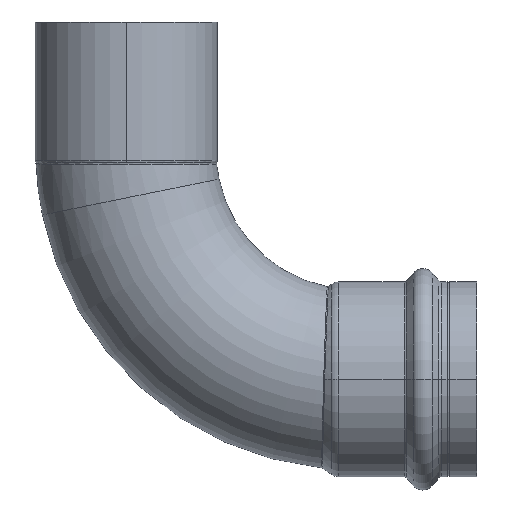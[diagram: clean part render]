
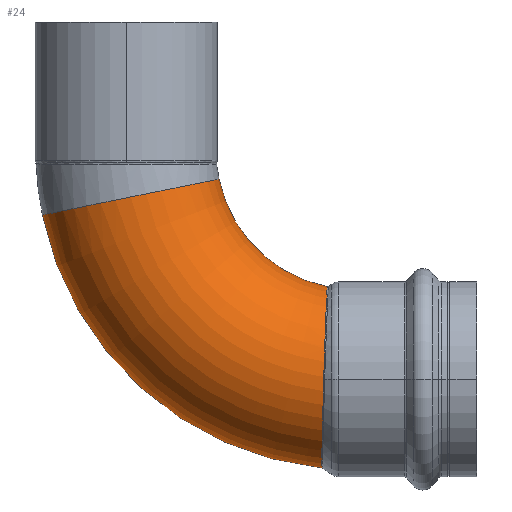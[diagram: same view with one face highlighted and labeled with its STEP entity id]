
A CAD part, top view. The second image highlights one B-rep face of the part: STEP entity #24.
In plain terms, the highlighted toroidal (fillet/blend) face has major radius 67.5 mm and minor radius 26.75 mm.
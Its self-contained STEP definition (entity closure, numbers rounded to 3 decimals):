
#12 = CARTESIAN_POINT ( 'NONE',  ( 58.665, 2.331, 26.7 ) ) ;
#24 = ADVANCED_FACE ( 'NONE', ( #2729 ), #2611, .T. ) ;
#27 = CARTESIAN_POINT ( 'NONE',  ( 58., -24.389, 9.847 ) ) ;
#41 = CARTESIAN_POINT ( 'NONE',  ( 58.256, -13.002, 23.083 ) ) ;
#61 = CARTESIAN_POINT ( 'NONE',  ( 58.883, 9.291, 25.338 ) ) ;
#70 = CARTESIAN_POINT ( 'NONE',  ( 59.392, 22.893, 15.023 ) ) ;
#91 = EDGE_CURVE ( 'NONE', #2955, #409, #864, .T. ) ;
#119 = DIRECTION ( 'NONE',  ( 0., 0., -1. ) ) ;
#333 = ORIENTED_EDGE ( 'NONE', *, *, #1307, .T. ) ;
#362 = EDGE_CURVE ( 'NONE', #2045, #3511, #3889, .T. ) ;
#394 = CARTESIAN_POINT ( 'NONE',  ( 57.961, -26.266, 0. ) ) ;
#396 = CARTESIAN_POINT ( 'NONE',  ( 58.22, -14.519, 22.128 ) ) ;
#409 = VERTEX_POINT ( 'NONE', #3865 ) ;
#413 = CARTESIAN_POINT ( 'NONE',  ( 58.976, 12.038, 24.213 ) ) ;
#422 = CARTESIAN_POINT ( 'NONE',  ( 59.492, 25.206, 11.077 ) ) ;
#447 = CARTESIAN_POINT ( 'NONE',  ( 1.347, 54.081, 0. ) ) ;
#464 = ORIENTED_EDGE ( 'NONE', *, *, #3797, .F. ) ;
#546 = CARTESIAN_POINT ( 'NONE',  ( 67.5, 67.5, 0. ) ) ;
#551 = DIRECTION ( 'NONE',  ( -1., 0., 0. ) ) ;
#647 = B_SPLINE_CURVE_WITH_KNOTS ( 'NONE', 3,
 ( #2679, #1715, #1138, #3296, #1441, #3576, #1731, #3845, #2028, #70, #2347, #422, #2696, #810, #3021, #1151, #3311, #1449, #3583, #1745 ),
 .UNSPECIFIED., .F., .F.,
 ( 4, 2, 2, 2, 2, 2, 2, 2, 2, 4 ),
 ( 0.078, 0.08, 0.082, 0.085, 0.089, 0.092, 0.099, 0.101, 0.102, 0.106 ),
 .UNSPECIFIED. ) ;
#700 = ORIENTED_EDGE ( 'NONE', *, *, #2612, .F. ) ;
#810 = CARTESIAN_POINT ( 'NONE',  ( 59.565, 26.793, 6.204 ) ) ;
#811 = DIRECTION ( 'NONE',  ( -1., 0., 0. ) ) ;
#821 = CARTESIAN_POINT ( 'NONE',  ( 67.5, 67.5, 0. ) ) ;
#834 = DIRECTION ( 'NONE',  ( -0.98, -0.199, 0. ) ) ;
#864 = CIRCLE ( 'NONE', #2225, 40.75 ) ;
#1096 = CARTESIAN_POINT ( 'NONE',  ( 57.996, -24.602, 9.292 ) ) ;
#1108 = CARTESIAN_POINT ( 'NONE',  ( 58.498, -3.562, 26.436 ) ) ;
#1138 = CARTESIAN_POINT ( 'NONE',  ( 59.104, 15.626, 22.189 ) ) ;
#1145 = CARTESIAN_POINT ( 'NONE',  ( 58.563, -1.216, 26.716 ) ) ;
#1151 = CARTESIAN_POINT ( 'NONE',  ( 59.581, 27.141, 4.521 ) ) ;
#1217 = DIRECTION ( 'NONE',  ( 0., 0., -1. ) ) ;
#1307 = EDGE_CURVE ( 'NONE', #3511, #2955, #647, .T. ) ;
#1330 = CARTESIAN_POINT ( 'NONE',  ( 58.995, 12.578, 23.953 ) ) ;
#1365 = CARTESIAN_POINT ( 'NONE',  ( 58.099, -19.818, 17.435 ) ) ;
#1392 = CARTESIAN_POINT ( 'NONE',  ( 58.015, -23.696, 11.485 ) ) ;
#1419 = CARTESIAN_POINT ( 'NONE',  ( 58.451, -5.315, 26.104 ) ) ;
#1434 = CARTESIAN_POINT ( 'NONE',  ( 57.963, -26.186, 2.378 ) ) ;
#1441 = CARTESIAN_POINT ( 'NONE',  ( 59.157, 17.024, 21.188 ) ) ;
#1445 = CARTESIAN_POINT ( 'NONE',  ( 59.032, 13.634, 23.401 ) ) ;
#1449 = CARTESIAN_POINT ( 'NONE',  ( 59.596, 27.45, 2.269 ) ) ;
#1455 = AXIS2_PLACEMENT_3D ( 'NONE', #447, #2718, #834 ) ;
#1489 = CIRCLE ( 'NONE', #2687, 94.25 ) ;
#1617 = DIRECTION ( 'NONE',  ( 0., 0., -1. ) ) ;
#1654 = CARTESIAN_POINT ( 'NONE',  ( 58.066, -21.297, 15.553 ) ) ;
#1665 = CARTESIAN_POINT ( 'NONE',  ( 58.701, 3.519, 26.597 ) ) ;
#1678 = CIRCLE ( 'NONE', #1455, 26.75 ) ;
#1682 = CARTESIAN_POINT ( 'NONE',  ( 58.155, -17.332, 19.962 ) ) ;
#1707 = CARTESIAN_POINT ( 'NONE',  ( 58.376, -8.182, 25.313 ) ) ;
#1715 = CARTESIAN_POINT ( 'NONE',  ( 59.087, 15.148, 22.502 ) ) ;
#1721 = CARTESIAN_POINT ( 'NONE',  ( 58.719, 4.113, 26.526 ) ) ;
#1731 = CARTESIAN_POINT ( 'NONE',  ( 59.241, 19.211, 19.345 ) ) ;
#1737 = CARTESIAN_POINT ( 'NONE',  ( 59.069, 14.66, 22.799 ) ) ;
#1745 = CARTESIAN_POINT ( 'NONE',  ( 59.599, 27.523, 0. ) ) ;
#1819 = AXIS2_PLACEMENT_3D ( 'NONE', #546, #1217, #551 ) ;
#1949 = CARTESIAN_POINT ( 'NONE',  ( 57.984, -25.17, 7.592 ) ) ;
#1960 = CARTESIAN_POINT ( 'NONE',  ( 58.116, -19.025, 18.315 ) ) ;
#1974 = CARTESIAN_POINT ( 'NONE',  ( 58.648, 1.738, 26.732 ) ) ;
#2003 = CARTESIAN_POINT ( 'NONE',  ( 58.294, -11.446, 23.946 ) ) ;
#2017 = CARTESIAN_POINT ( 'NONE',  ( 58.809, 7.027, 25.998 ) ) ;
#2028 = CARTESIAN_POINT ( 'NONE',  ( 59.335, 21.527, 16.85 ) ) ;
#2040 = CARTESIAN_POINT ( 'NONE',  ( 59.599, 27.523, 0. ) ) ;
#2045 = VERTEX_POINT ( 'NONE', #394 ) ;
#2082 = CARTESIAN_POINT ( 'NONE',  ( 67.5, 67.5, 0. ) ) ;
#2225 = AXIS2_PLACEMENT_3D ( 'NONE', #821, #1617, #811 ) ;
#2303 = CARTESIAN_POINT ( 'NONE',  ( 57.987, -24.994, 8.162 ) ) ;
#2322 = CARTESIAN_POINT ( 'NONE',  ( 58.244, -13.514, 22.776 ) ) ;
#2337 = CARTESIAN_POINT ( 'NONE',  ( 58.92, 10.403, 24.933 ) ) ;
#2347 = CARTESIAN_POINT ( 'NONE',  ( 59.419, 23.525, 14.055 ) ) ;
#2410 = DIRECTION ( 'NONE',  ( -1., 0., 0. ) ) ;
#2587 = CARTESIAN_POINT ( 'NONE',  ( 57.961, -26.266, 0. ) ) ;
#2611 = TOROIDAL_SURFACE ( 'NONE', #1819, 67.5, 26.75 ) ;
#2612 = EDGE_CURVE ( 'NONE', #3008, #409, #1678, .T. ) ;
#2664 = CARTESIAN_POINT ( 'NONE',  ( 58.209, -15.008, 21.789 ) ) ;
#2679 = CARTESIAN_POINT ( 'NONE',  ( 59.069, 14.66, 22.799 ) ) ;
#2687 = AXIS2_PLACEMENT_3D ( 'NONE', #2082, #119, #2410 ) ;
#2696 = CARTESIAN_POINT ( 'NONE',  ( 59.531, 26.062, 8.977 ) ) ;
#2704 = ORIENTED_EDGE ( 'NONE', *, *, #91, .T. ) ;
#2718 = DIRECTION ( 'NONE',  ( -0.199, 0.98, 0. ) ) ;
#2729 = FACE_OUTER_BOUND ( 'NONE', #3961, .T. ) ;
#2928 = CARTESIAN_POINT ( 'NONE',  ( 57.961, -26.266, 1.195 ) ) ;
#2955 = VERTEX_POINT ( 'NONE', #2040 ) ;
#2983 = CARTESIAN_POINT ( 'NONE',  ( 59.069, 14.66, 22.799 ) ) ;
#2986 = CARTESIAN_POINT ( 'NONE',  ( 58.175, -16.434, 20.728 ) ) ;
#3008 = VERTEX_POINT ( 'NONE', #3051 ) ;
#3021 = CARTESIAN_POINT ( 'NONE',  ( 59.571, 26.922, 5.642 ) ) ;
#3051 = CARTESIAN_POINT ( 'NONE',  ( -24.869, 48.763, 0. ) ) ;
#3224 = CARTESIAN_POINT ( 'NONE',  ( 57.969, -25.872, 4.717 ) ) ;
#3276 = CARTESIAN_POINT ( 'NONE',  ( 58.466, -4.73, 26.228 ) ) ;
#3296 = CARTESIAN_POINT ( 'NONE',  ( 59.139, 16.564, 21.532 ) ) ;
#3304 = CARTESIAN_POINT ( 'NONE',  ( 58.596, -0.037, 26.769 ) ) ;
#3311 = CARTESIAN_POINT ( 'NONE',  ( 59.585, 27.232, 3.959 ) ) ;
#3351 = ORIENTED_EDGE ( 'NONE', *, *, #362, .T. ) ;
#3498 = CARTESIAN_POINT ( 'NONE',  ( 58.026, -23.165, 12.539 ) ) ;
#3511 = VERTEX_POINT ( 'NONE', #2983 ) ;
#3550 = CARTESIAN_POINT ( 'NONE',  ( 58.405, -7.054, 25.673 ) ) ;
#3576 = CARTESIAN_POINT ( 'NONE',  ( 59.208, 18.369, 20.112 ) ) ;
#3578 = CARTESIAN_POINT ( 'NONE',  ( 59.051, 14.152, 23.109 ) ) ;
#3583 = CARTESIAN_POINT ( 'NONE',  ( 59.599, 27.523, 1.137 ) ) ;
#3777 = CARTESIAN_POINT ( 'NONE',  ( 58.052, -21.965, 14.573 ) ) ;
#3797 = EDGE_CURVE ( 'NONE', #2045, #3008, #1489, .T. ) ;
#3800 = CARTESIAN_POINT ( 'NONE',  ( 58.514, -2.976, 26.52 ) ) ;
#3828 = CARTESIAN_POINT ( 'NONE',  ( 58.32, -10.378, 24.449 ) ) ;
#3841 = CARTESIAN_POINT ( 'NONE',  ( 58.773, 5.874, 26.254 ) ) ;
#3845 = CARTESIAN_POINT ( 'NONE',  ( 59.304, 20.79, 17.714 ) ) ;
#3865 = CARTESIAN_POINT ( 'NONE',  ( 27.563, 59.399, 0. ) ) ;
#3889 = B_SPLINE_CURVE_WITH_KNOTS ( 'NONE', 3,
 ( #2587, #2928, #1434, #3224, #4054, #1949, #2303, #1096, #27, #1392, #3498, #3777, #1654, #1365, #1960, #1682, #2986, #2664, #396, #2322, #41, #2003, #3828, #1707, #3550, #1419, #3276, #1108, #3800, #1145, #3304, #1974, #12, #1665, #1721, #3841, #2017, #61, #2337, #413, #1330, #1445, #3578, #1737 ),
 .UNSPECIFIED., .F., .F.,
 ( 4, 2, 2, 2, 2, 2, 2, 2, 2, 2, 2, 2, 2, 2, 2, 2, 2, 2, 2, 2, 2, 4 ),
 ( 0.021, 0.025, 0.028, 0.03, 0.032, 0.035, 0.039, 0.042, 0.046, 0.048, 0.05, 0.053, 0.057, 0.059, 0.06, 0.064, 0.066, 0.068, 0.071, 0.075, 0.077, 0.078 ),
 .UNSPECIFIED. ) ;
#3961 = EDGE_LOOP ( 'NONE', ( #464, #3351, #333, #2704, #700 ) ) ;
#4054 = CARTESIAN_POINT ( 'NONE',  ( 57.974, -25.638, 5.875 ) ) ;
